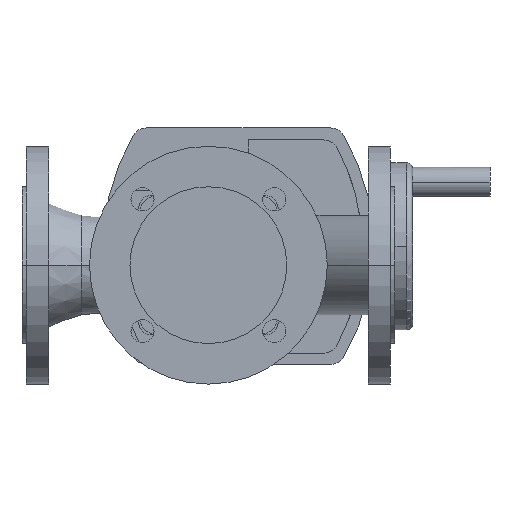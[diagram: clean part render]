
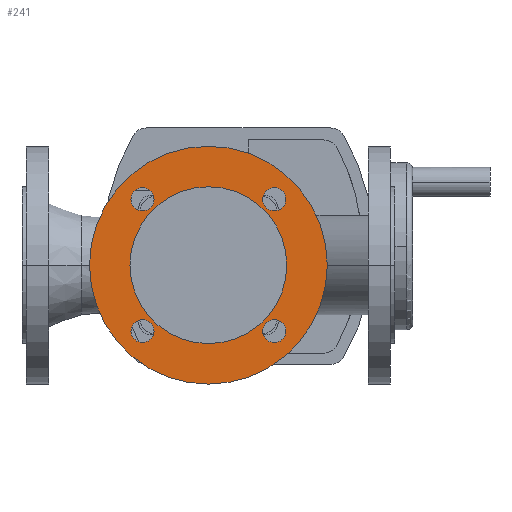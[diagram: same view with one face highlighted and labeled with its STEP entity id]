
A CAD part, front view. The second image highlights one B-rep face of the part: STEP entity #241.
In plain terms, the highlighted planar face has unit normal (0, -1, 0).
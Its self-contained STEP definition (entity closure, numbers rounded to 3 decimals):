
#241 = ADVANCED_FACE( '', ( #630, #631, #632, #633, #634, #635 ), #636, .F. );
#630 = FACE_BOUND( '', #1184, .T. );
#631 = FACE_BOUND( '', #1185, .T. );
#632 = FACE_BOUND( '', #1186, .T. );
#633 = FACE_BOUND( '', #1187, .T. );
#634 = FACE_OUTER_BOUND( '', #1188, .T. );
#635 = FACE_BOUND( '', #1189, .T. );
#636 = PLANE( '', #1190 );
#1184 = EDGE_LOOP( '', ( #2391, #2392 ) );
#1185 = EDGE_LOOP( '', ( #2393, #2394 ) );
#1186 = EDGE_LOOP( '', ( #2395, #2396 ) );
#1187 = EDGE_LOOP( '', ( #2397, #2398 ) );
#1188 = EDGE_LOOP( '', ( #2399, #2400 ) );
#1189 = EDGE_LOOP( '', ( #2401, #2402 ) );
#1190 = AXIS2_PLACEMENT_3D( '', #2403, #2404, #2405 );
#2391 = ORIENTED_EDGE( '', *, *, #3661, .T. );
#2392 = ORIENTED_EDGE( '', *, *, #3662, .T. );
#2393 = ORIENTED_EDGE( '', *, *, #3657, .T. );
#2394 = ORIENTED_EDGE( '', *, *, #3664, .T. );
#2395 = ORIENTED_EDGE( '', *, *, #3653, .T. );
#2396 = ORIENTED_EDGE( '', *, *, #3666, .T. );
#2397 = ORIENTED_EDGE( '', *, *, #3649, .T. );
#2398 = ORIENTED_EDGE( '', *, *, #3668, .T. );
#2399 = ORIENTED_EDGE( '', *, *, #3559, .F. );
#2400 = ORIENTED_EDGE( '', *, *, #3824, .F. );
#2401 = ORIENTED_EDGE( '', *, *, #3530, .F. );
#2402 = ORIENTED_EDGE( '', *, *, #3825, .F. );
#2403 = CARTESIAN_POINT( '', ( 145., -116.5, 0. ) );
#2404 = DIRECTION( '', ( 0., 1., 0. ) );
#2405 = DIRECTION( '', ( 0., 0., 1. ) );
#3530 = EDGE_CURVE( '', #4189, #4185, #4191, .T. );
#3559 = EDGE_CURVE( '', #4240, #4243, #4244, .T. );
#3649 = EDGE_CURVE( '', #4410, #4414, #4416, .T. );
#3653 = EDGE_CURVE( '', #4418, #4422, #4424, .T. );
#3657 = EDGE_CURVE( '', #4426, #4430, #4432, .T. );
#3661 = EDGE_CURVE( '', #4434, #4438, #4440, .T. );
#3662 = EDGE_CURVE( '', #4438, #4434, #4441, .T. );
#3664 = EDGE_CURVE( '', #4430, #4426, #4443, .T. );
#3666 = EDGE_CURVE( '', #4422, #4418, #4445, .T. );
#3668 = EDGE_CURVE( '', #4414, #4410, #4447, .T. );
#3824 = EDGE_CURVE( '', #4243, #4240, #4679, .T. );
#3825 = EDGE_CURVE( '', #4185, #4189, #4680, .T. );
#4185 = VERTEX_POINT( '', #5310 );
#4189 = VERTEX_POINT( '', #5315 );
#4191 = CIRCLE( '', #5318, 61. );
#4240 = VERTEX_POINT( '', #5440 );
#4243 = VERTEX_POINT( '', #5444 );
#4244 = CIRCLE( '', #5445, 92.5 );
#4410 = VERTEX_POINT( '', #5736 );
#4414 = VERTEX_POINT( '', #5741 );
#4416 = CIRCLE( '', #5744, 9. );
#4418 = VERTEX_POINT( '', #5746 );
#4422 = VERTEX_POINT( '', #5751 );
#4424 = CIRCLE( '', #5754, 9. );
#4426 = VERTEX_POINT( '', #5756 );
#4430 = VERTEX_POINT( '', #5761 );
#4432 = CIRCLE( '', #5764, 9. );
#4434 = VERTEX_POINT( '', #5766 );
#4438 = VERTEX_POINT( '', #5771 );
#4440 = CIRCLE( '', #5774, 9. );
#4441 = CIRCLE( '', #5775, 9. );
#4443 = CIRCLE( '', #5777, 9. );
#4445 = CIRCLE( '', #5779, 9. );
#4447 = CIRCLE( '', #5781, 9. );
#4679 = CIRCLE( '', #6185, 92.5 );
#4680 = CIRCLE( '', #6186, 61. );
#5310 = CARTESIAN_POINT( '', ( 206., -116.5, 0. ) );
#5315 = CARTESIAN_POINT( '', ( 84., -116.5, 0. ) );
#5318 = AXIS2_PLACEMENT_3D( '', #6937, #6938, #6939 );
#5440 = CARTESIAN_POINT( '', ( 237.5, -116.5, 0. ) );
#5444 = CARTESIAN_POINT( '', ( 52.5, -116.5, 0. ) );
#5445 = AXIS2_PLACEMENT_3D( '', #6991, #6992, #6993 );
#5736 = CARTESIAN_POINT( '', ( 84.735, -116.5, -51.265 ) );
#5741 = CARTESIAN_POINT( '', ( 102.735, -116.5, -51.265 ) );
#5744 = AXIS2_PLACEMENT_3D( '', #7171, #7172, #7173 );
#5746 = CARTESIAN_POINT( '', ( 84.735, -116.5, 51.265 ) );
#5751 = CARTESIAN_POINT( '', ( 102.735, -116.5, 51.265 ) );
#5754 = AXIS2_PLACEMENT_3D( '', #7179, #7180, #7181 );
#5756 = CARTESIAN_POINT( '', ( 187.265, -116.5, 51.265 ) );
#5761 = CARTESIAN_POINT( '', ( 205.265, -116.5, 51.265 ) );
#5764 = AXIS2_PLACEMENT_3D( '', #7187, #7188, #7189 );
#5766 = CARTESIAN_POINT( '', ( 187.265, -116.5, -51.265 ) );
#5771 = CARTESIAN_POINT( '', ( 205.265, -116.5, -51.265 ) );
#5774 = AXIS2_PLACEMENT_3D( '', #7195, #7196, #7197 );
#5775 = AXIS2_PLACEMENT_3D( '', #7198, #7199, #7200 );
#5777 = AXIS2_PLACEMENT_3D( '', #7204, #7205, #7206 );
#5779 = AXIS2_PLACEMENT_3D( '', #7210, #7211, #7212 );
#5781 = AXIS2_PLACEMENT_3D( '', #7216, #7217, #7218 );
#6185 = AXIS2_PLACEMENT_3D( '', #7496, #7497, #7498 );
#6186 = AXIS2_PLACEMENT_3D( '', #7499, #7500, #7501 );
#6937 = CARTESIAN_POINT( '', ( 145., -116.5, 0. ) );
#6938 = DIRECTION( '', ( 0., -1., 0. ) );
#6939 = DIRECTION( '', ( 1., 0., 0. ) );
#6991 = CARTESIAN_POINT( '', ( 145., -116.5, 0. ) );
#6992 = DIRECTION( '', ( 0., 1., 0. ) );
#6993 = DIRECTION( '', ( 1., 0., 0. ) );
#7171 = CARTESIAN_POINT( '', ( 93.735, -116.5, -51.265 ) );
#7172 = DIRECTION( '', ( 0., 1., 0. ) );
#7173 = DIRECTION( '', ( -1., 0., 0. ) );
#7179 = CARTESIAN_POINT( '', ( 93.735, -116.5, 51.265 ) );
#7180 = DIRECTION( '', ( 0., 1., 0. ) );
#7181 = DIRECTION( '', ( -1., 0., 0. ) );
#7187 = CARTESIAN_POINT( '', ( 196.265, -116.5, 51.265 ) );
#7188 = DIRECTION( '', ( 0., 1., 0. ) );
#7189 = DIRECTION( '', ( -1., 0., 0. ) );
#7195 = CARTESIAN_POINT( '', ( 196.265, -116.5, -51.265 ) );
#7196 = DIRECTION( '', ( 0., 1., 0. ) );
#7197 = DIRECTION( '', ( -1., 0., 0. ) );
#7198 = CARTESIAN_POINT( '', ( 196.265, -116.5, -51.265 ) );
#7199 = DIRECTION( '', ( 0., 1., 0. ) );
#7200 = DIRECTION( '', ( -1., 0., 0. ) );
#7204 = CARTESIAN_POINT( '', ( 196.265, -116.5, 51.265 ) );
#7205 = DIRECTION( '', ( 0., 1., 0. ) );
#7206 = DIRECTION( '', ( -1., 0., 0. ) );
#7210 = CARTESIAN_POINT( '', ( 93.735, -116.5, 51.265 ) );
#7211 = DIRECTION( '', ( 0., 1., 0. ) );
#7212 = DIRECTION( '', ( -1., 0., 0. ) );
#7216 = CARTESIAN_POINT( '', ( 93.735, -116.5, -51.265 ) );
#7217 = DIRECTION( '', ( 0., 1., 0. ) );
#7218 = DIRECTION( '', ( -1., 0., 0. ) );
#7496 = CARTESIAN_POINT( '', ( 145., -116.5, 0. ) );
#7497 = DIRECTION( '', ( 0., 1., 0. ) );
#7498 = DIRECTION( '', ( 1., 0., 0. ) );
#7499 = CARTESIAN_POINT( '', ( 145., -116.5, 0. ) );
#7500 = DIRECTION( '', ( 0., -1., 0. ) );
#7501 = DIRECTION( '', ( 1., 0., 0. ) );
